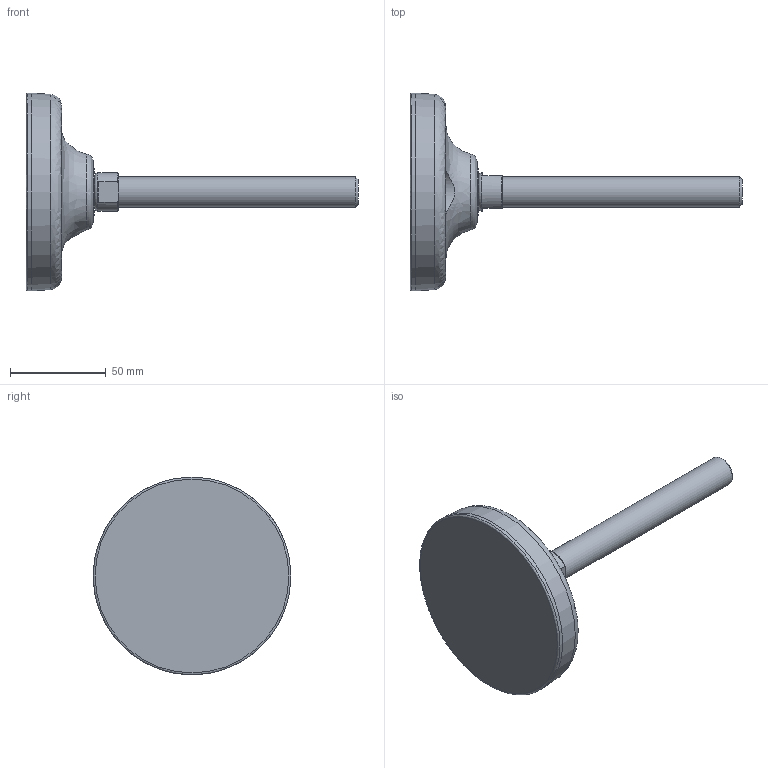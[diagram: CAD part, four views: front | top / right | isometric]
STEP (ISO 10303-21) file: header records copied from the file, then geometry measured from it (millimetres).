
FILE_DESCRIPTION(('STEP AP203'),'2;1');
FILE_NAME('12725.stp','2015-04-11T07:34:05',(''),(''),'2008.1.107','THINKDESIGN','');
FILE_SCHEMA(('CONFIG_CONTROL_DESIGN'));
Length unit declared in the file: millimetre
Bounding box: 173 x 103 x 103 mm (x, y, z)
Volume: 184863.9 mm3; surface area: 52472.9 mm2
Topology: 6 solids, 6 shells, 44 faces, 104 edges, 78 vertices
Faces by surface type: plane 21, cylinder 12, bspline 11
Full cylindrical faces by diameter (mm): 15 x2, 16 x1, 19.5 x1, 20 x1, 24.5 x2, 27 x1, 95.5 x1, 103 x1
Entity records: 2609 total; most frequent: CARTESIAN_POINT 1361, DIRECTION 237, ORIENTED_EDGE 206, AXIS2_PLACEMENT_3D 107, EDGE_CURVE 103, VERTEX_POINT 76, CIRCLE 74, EDGE_LOOP 51
